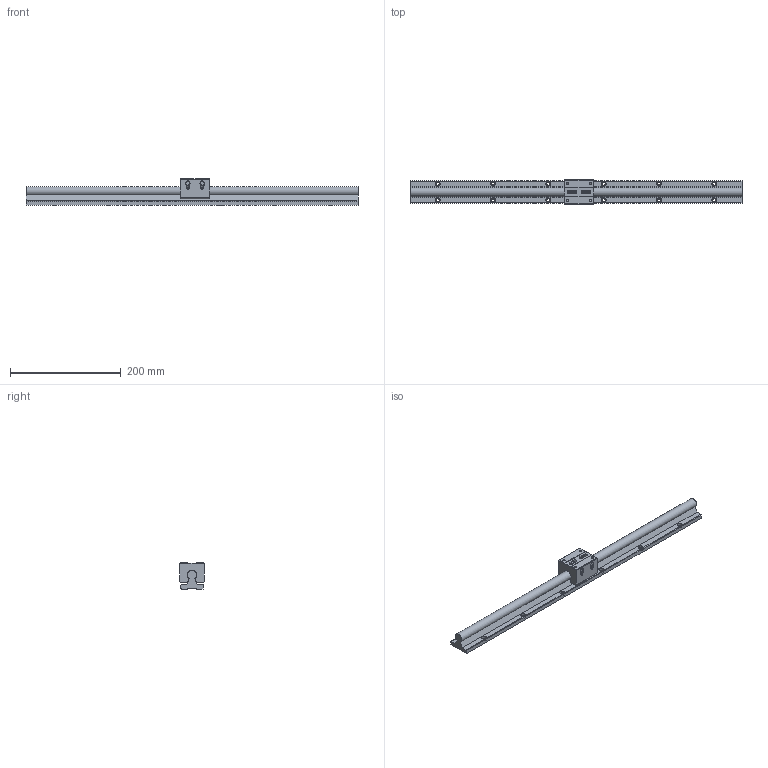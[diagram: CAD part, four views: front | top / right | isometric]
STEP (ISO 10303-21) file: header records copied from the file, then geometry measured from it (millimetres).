
FILE_DESCRIPTION((''),'2;1');
FILE_NAME('D:\製品 (図面)\カタログ用3D\リニアガイド関連\STEP形式\SLGB\SLGB16.stp','2010-06-02T16:55:47',('Tsuchiya'),(''),'Autodesk Inventor 10','Autodesk Inventor 10','');
FILE_SCHEMA(('AUTOMOTIVE_DESIGN { 1 0 10303 214 1 1 1 1 }'));
Length unit declared in the file: millimetre
Products named in the file (3): SLGB16; SLGB161; SLGB162
Assembly tree (2 placements, depth 2):
  SLGB16
    SLGB161
    SLGB162
Bounding box: 600 x 45 x 47 mm (x, y, z)
Volume: 445874.3 mm3; surface area: 105770.8 mm2
Topology: 2 solids, 2 shells, 239 faces, 589 edges, 382 vertices
Faces by surface type: bspline 109, plane 76, cylinder 31, cone 20, torus 3
Full cylindrical faces by diameter (mm): 4.134 x2, 5 x3, 5.5 x3, 6.5 x3, 8 x3, 13 x3
Entity records: 7695 total; most frequent: CARTESIAN_POINT 2905, ORIENTED_EDGE 918, DIRECTION 849, EDGE_CURVE 459, EDGE_LOOP 391, VERTEX_POINT 344, AXIS2_PLACEMENT_3D 321, FACE_OUTER_BOUND 239
